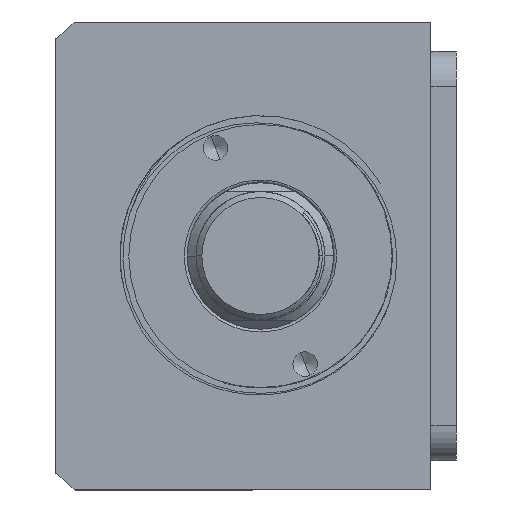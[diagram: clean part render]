
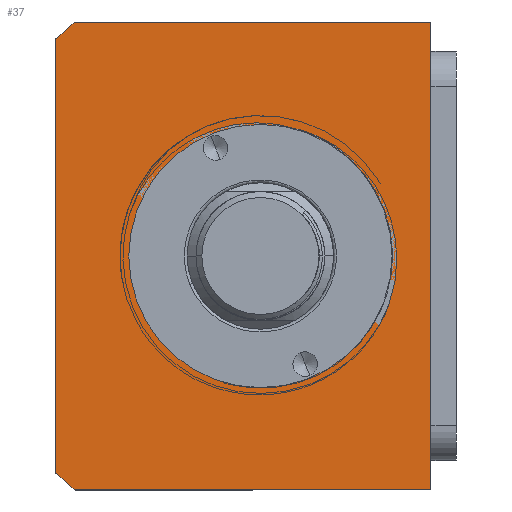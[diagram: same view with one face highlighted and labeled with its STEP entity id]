
A CAD part, front view. The second image highlights one B-rep face of the part: STEP entity #37.
In plain terms, the highlighted planar face has unit normal (0, -1, 0) as drawn and (0, 0, 1) by its records, which use the part's own axes.
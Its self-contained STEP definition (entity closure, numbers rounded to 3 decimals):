
#37 = ADVANCED_FACE ( 'NONE', ( #10401, #17228 ), #3493, .T. ) ;
#237 = ORIENTED_EDGE ( 'NONE', *, *, #10288, .F. ) ;
#269 = CIRCLE ( 'NONE', #1711, 22.5 ) ;
#563 = CARTESIAN_POINT ( 'NONE',  ( -40., 32., 120. ) ) ;
#673 = CARTESIAN_POINT ( 'NONE',  ( 37.094, -32., 120. ) ) ;
#713 = VECTOR ( 'NONE', #7227, 1000. ) ;
#881 = DIRECTION ( 'NONE',  ( 1., 0., 0. ) ) ;
#1504 = VERTEX_POINT ( 'NONE', #673 ) ;
#1711 = AXIS2_PLACEMENT_3D ( 'NONE', #15567, #7443, #16961 ) ;
#1721 = VECTOR ( 'NONE', #6142, 1000. ) ;
#1797 = AXIS2_PLACEMENT_3D ( 'NONE', #2664, #12236, #4059 ) ;
#1899 = EDGE_LOOP ( 'NONE', ( #6808, #3837, #13396, #15421, #5962, #5722 ) ) ;
#2642 = AXIS2_PLACEMENT_3D ( 'NONE', #12670, #7763, #3543 ) ;
#2664 = CARTESIAN_POINT ( 'NONE',  ( 0., 3., 120. ) ) ;
#3437 = DIRECTION ( 'NONE',  ( 0., 0., 1. ) ) ;
#3493 = PLANE ( 'NONE',  #2642 ) ;
#3543 = DIRECTION ( 'NONE',  ( 1., 0., 0. ) ) ;
#3704 = VERTEX_POINT ( 'NONE', #9001 ) ;
#3837 = ORIENTED_EDGE ( 'NONE', *, *, #4098, .T. ) ;
#3889 = EDGE_CURVE ( 'NONE', #11678, #1504, #17286, .T. ) ;
#3920 = EDGE_CURVE ( 'NONE', #4991, #17024, #12370, .T. ) ;
#4034 = CARTESIAN_POINT ( 'NONE',  ( 40., 32., 120. ) ) ;
#4059 = DIRECTION ( 'NONE',  ( 1., 0., 0. ) ) ;
#4098 = EDGE_CURVE ( 'NONE', #6578, #11678, #11078, .T. ) ;
#4363 = LINE ( 'NONE', #16751, #713 ) ;
#4624 = EDGE_CURVE ( 'NONE', #1504, #7437, #11547, .T. ) ;
#4991 = VERTEX_POINT ( 'NONE', #4034 ) ;
#5722 = ORIENTED_EDGE ( 'NONE', *, *, #3920, .T. ) ;
#5962 = ORIENTED_EDGE ( 'NONE', *, *, #7261, .T. ) ;
#6026 = CARTESIAN_POINT ( 'NONE',  ( 40., 32., 120. ) ) ;
#6142 = DIRECTION ( 'NONE',  ( 0., 1., 0. ) ) ;
#6309 = CARTESIAN_POINT ( 'NONE',  ( -40., -32., 120. ) ) ;
#6491 = CARTESIAN_POINT ( 'NONE',  ( 40., -28.639, 120. ) ) ;
#6578 = VERTEX_POINT ( 'NONE', #15564 ) ;
#6808 = ORIENTED_EDGE ( 'NONE', *, *, #10182, .T. ) ;
#6986 = EDGE_LOOP ( 'NONE', ( #237, #14877 ) ) ;
#7227 = DIRECTION ( 'NONE',  ( 0., -1., 0. ) ) ;
#7261 = EDGE_CURVE ( 'NONE', #7437, #4991, #9452, .T. ) ;
#7426 = DIRECTION ( 'NONE',  ( 0., 0., 1. ) ) ;
#7437 = VERTEX_POINT ( 'NONE', #6491 ) ;
#7443 = DIRECTION ( 'NONE',  ( 0., 0., 1. ) ) ;
#7763 = DIRECTION ( 'NONE',  ( 0., 0., 1. ) ) ;
#9001 = CARTESIAN_POINT ( 'NONE',  ( -22.5, 3., 120. ) ) ;
#9198 = VECTOR ( 'NONE', #15991, 1000. ) ;
#9452 = LINE ( 'NONE', #6026, #1721 ) ;
#10182 = EDGE_CURVE ( 'NONE', #17024, #6578, #4363, .T. ) ;
#10288 = EDGE_CURVE ( 'NONE', #13882, #3704, #269, .T. ) ;
#10401 = FACE_BOUND ( 'NONE', #6986, .T. ) ;
#10607 = CIRCLE ( 'NONE', #14449, 22.5 ) ;
#10616 = AXIS2_PLACEMENT_3D ( 'NONE', #15558, #7426, #16945 ) ;
#11078 = CIRCLE ( 'NONE', #1797, 51. ) ;
#11547 = CIRCLE ( 'NONE', #10616, 51. ) ;
#11628 = CARTESIAN_POINT ( 'NONE',  ( 0., 3., 120. ) ) ;
#11678 = VERTEX_POINT ( 'NONE', #11802 ) ;
#11802 = CARTESIAN_POINT ( 'NONE',  ( -37.094, -32., 120. ) ) ;
#11921 = CARTESIAN_POINT ( 'NONE',  ( 22.5, 3., 120. ) ) ;
#12236 = DIRECTION ( 'NONE',  ( 0., 0., 1. ) ) ;
#12370 = LINE ( 'NONE', #14567, #9198 ) ;
#12670 = CARTESIAN_POINT ( 'NONE',  ( 0., 0., 120. ) ) ;
#12999 = DIRECTION ( 'NONE',  ( 1., 0., 0. ) ) ;
#13396 = ORIENTED_EDGE ( 'NONE', *, *, #3889, .T. ) ;
#13882 = VERTEX_POINT ( 'NONE', #11921 ) ;
#14406 = EDGE_CURVE ( 'NONE', #3704, #13882, #10607, .T. ) ;
#14449 = AXIS2_PLACEMENT_3D ( 'NONE', #11628, #3437, #12999 ) ;
#14567 = CARTESIAN_POINT ( 'NONE',  ( -40., 32., 120. ) ) ;
#14877 = ORIENTED_EDGE ( 'NONE', *, *, #14406, .F. ) ;
#15421 = ORIENTED_EDGE ( 'NONE', *, *, #4624, .T. ) ;
#15558 = CARTESIAN_POINT ( 'NONE',  ( 0., 3., 120. ) ) ;
#15564 = CARTESIAN_POINT ( 'NONE',  ( -40., -28.639, 120. ) ) ;
#15567 = CARTESIAN_POINT ( 'NONE',  ( 0., 3., 120. ) ) ;
#15991 = DIRECTION ( 'NONE',  ( -1., 0., 0. ) ) ;
#15992 = VECTOR ( 'NONE', #881, 1000. ) ;
#16751 = CARTESIAN_POINT ( 'NONE',  ( -40., 32., 120. ) ) ;
#16945 = DIRECTION ( 'NONE',  ( 1., 0., 0. ) ) ;
#16961 = DIRECTION ( 'NONE',  ( 1., 0., 0. ) ) ;
#17024 = VERTEX_POINT ( 'NONE', #563 ) ;
#17228 = FACE_OUTER_BOUND ( 'NONE', #1899, .T. ) ;
#17286 = LINE ( 'NONE', #6309, #15992 ) ;
